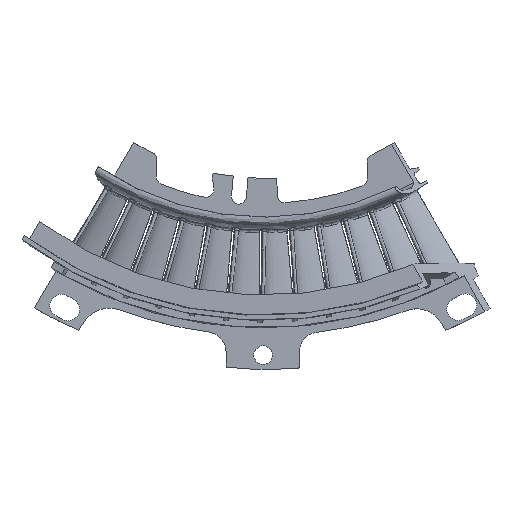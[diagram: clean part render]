
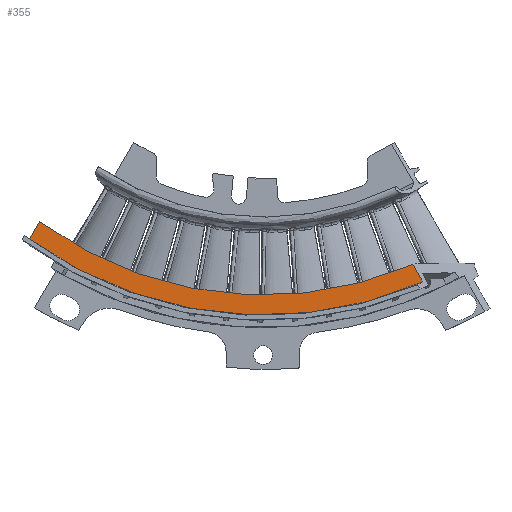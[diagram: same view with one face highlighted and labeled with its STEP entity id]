
A CAD part, top view. The second image highlights one B-rep face of the part: STEP entity #355.
In plain terms, the highlighted free-form (B-spline) face has degree [1, 1] with [2, 2] control points.
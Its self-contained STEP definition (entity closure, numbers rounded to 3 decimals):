
#355=ADVANCED_FACE('',(#1106),#1107,.F.);
#1106=FACE_OUTER_BOUND('',#73998,.T.);
#1107=B_SPLINE_SURFACE_WITH_KNOTS('',1,1,((#73999,#74000),(#74001,#74002)),.UNSPECIFIED.,.F.,.F.,.F.,(2,2),(2,2),(0.0,1.0),(0.0,1.0),.UNSPECIFIED.);
#73998=EDGE_LOOP('',(#97197,#97198,#97199,#97200));
#73999=CARTESIAN_POINT('',(56.4,13.705,23.137));
#74000=CARTESIAN_POINT('',(56.4,46.615,23.137));
#74001=CARTESIAN_POINT('',(-82.042,13.705,23.137));
#74002=CARTESIAN_POINT('',(-82.042,46.615,23.137));
#97197=ORIENTED_EDGE('',*,*,#98512,.F.);
#97198=ORIENTED_EDGE('',*,*,#98993,.F.);
#97199=ORIENTED_EDGE('',*,*,#98994,.F.);
#97200=ORIENTED_EDGE('',*,*,#98995,.T.);
#98512=EDGE_CURVE('',#100306,#100308,#100309,.T.);
#98993=EDGE_CURVE('',#101040,#100306,#101041,.T.);
#98994=EDGE_CURVE('',#101042,#101040,#101043,.T.);
#98995=EDGE_CURVE('',#101042,#100308,#101044,.T.);
#100306=VERTEX_POINT('',#106130);
#100308=VERTEX_POINT('',#106135);
#100309=LINE('',#106136,#106137);
#101040=VERTEX_POINT('',#109327);
#101041=CIRCLE('',#109328,131.708);
#101042=VERTEX_POINT('',#109329);
#101043=LINE('',#109330,#109331);
#101044=CIRCLE('',#109332,138.654);
#106130=CARTESIAN_POINT('',(52.093,31.465,23.137));
#106135=CARTESIAN_POINT('',(55.579,25.404,23.137));
#106136=CARTESIAN_POINT('',(9.277,105.898,23.137));
#106137=VECTOR('',#110429,1.0);
#109327=CARTESIAN_POINT('',(-77.711,46.42,23.137));
#109328=AXIS2_PLACEMENT_3D('',#110835,#110836,#110837);
#109329=CARTESIAN_POINT('',(-81.222,40.383,23.137));
#109330=CARTESIAN_POINT('',(-49.439,95.033,23.137));
#109331=VECTOR('',#110838,1.0);
#109332=AXIS2_PLACEMENT_3D('',#110839,#110840,#110841);
#110429=DIRECTION('',(0.499,-0.867,0.0));
#110835=CARTESIAN_POINT('',(0.28,152.554,23.137));
#110836=DIRECTION('',(0.0,0.0,1.0));
#110837=DIRECTION('',(-0.658,-0.753,0.0));
#110838=DIRECTION('',(0.503,0.864,0.0));
#110839=CARTESIAN_POINT('',(0.28,152.554,23.137));
#110840=DIRECTION('',(0.0,0.0,1.0));
#110841=DIRECTION('',(-0.658,-0.753,0.0));
